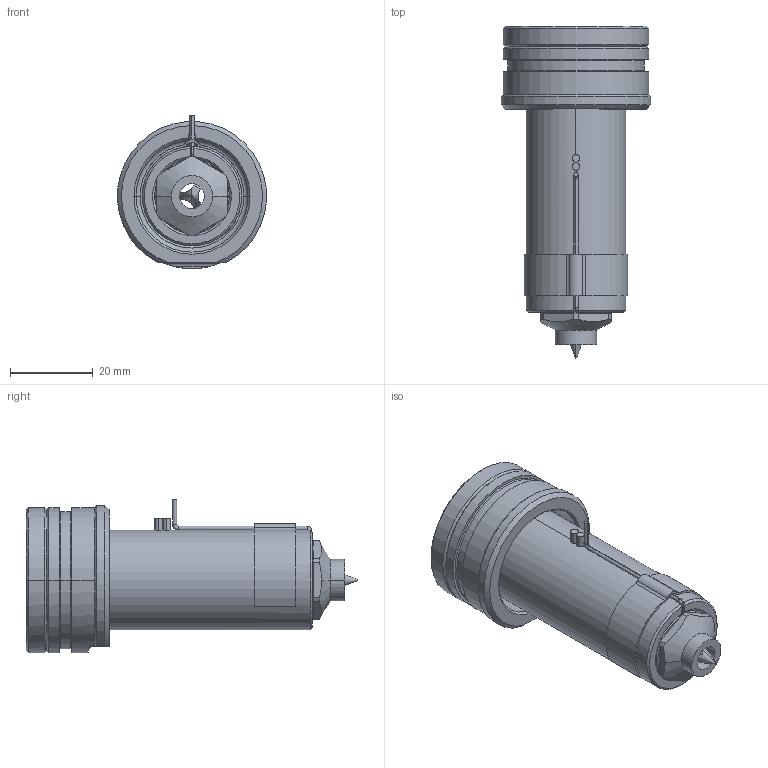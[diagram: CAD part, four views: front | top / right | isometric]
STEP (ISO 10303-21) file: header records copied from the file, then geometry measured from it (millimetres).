
FILE_DESCRIPTION((''),'2;1');
FILE_NAME('EO06_PG-BL_WR_060_SW','2024-02-19T11:02:39',('sundharh'),(''),'CREO PARAMETRIC BY PTC INC, 2023154','CREO PARAMETRIC BY PTC INC, 2023154','');
FILE_SCHEMA(('CONFIG_CONTROL_DESIGN'));
Length unit declared in the file: millimetre
Products named in the file (1): EO06_PG-BL_WR_060_SW
Bounding box: 35.93 x 80 x 37 mm (x, y, z)
Volume: 38908.5 mm3; surface area: 13108.9 mm2
Topology: 2 solids, 2 shells, 205 faces, 552 edges, 340 vertices
Faces by surface type: cylinder 83, plane 55, cone 38, torus 21, bspline 6, sphere 2
Entity records: 7374 total; most frequent: CARTESIAN_POINT 2137, DIRECTION 1153, ORIENTED_EDGE 1092, EDGE_CURVE 546, AXIS2_PLACEMENT_3D 485, VERTEX_POINT 340, CIRCLE 286, EDGE_LOOP 220
